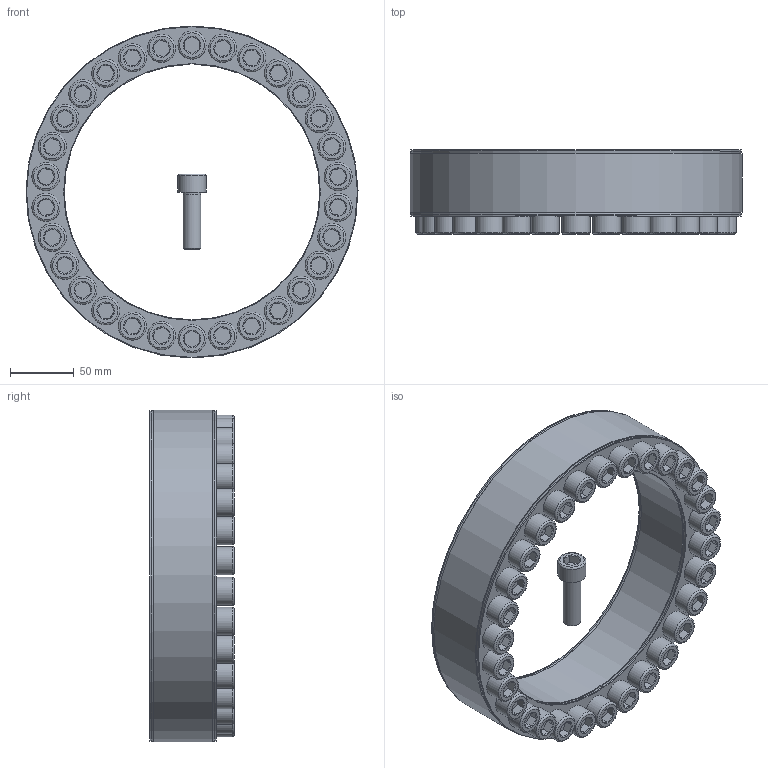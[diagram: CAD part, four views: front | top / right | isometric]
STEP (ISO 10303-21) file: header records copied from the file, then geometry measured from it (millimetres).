
FILE_DESCRIPTION( ( 'Unknown' ), '1' );
FILE_NAME( 'C:/Dokumente und Einstellungen/Sven/Desktop/homepage/cad - homepage/KBS40/KBS 40 - 200 x 260.stp', 'Unknown', ( 'Unknown' ), ( 'Unknown' ), 'XStep 1.0', 'Unknown', ' ' );
FILE_SCHEMA( ( 'automotive_design' ) );
Length unit declared in the file: millimetre
Products named in the file (32): Assem1; KBS 40 200x260; ISO 4762 M14x45; ISO 4762 M14x45-oa0; ISO 4762 M14x45-oa1; ISO 4762 M14x45-oa2; ISO 4762 M14x45-oa3; ISO 4762 M14x45-oa4; ISO 4762 M14x45-oa5; ISO 4762 M14x45-oa6; ISO 4762 M14x45-oa7; ISO 4762 M14x45-oa8; ISO 4762 M14x45-oa9; ISO 4762 M14x45-oa10; ISO 4762 M14x45-oa11; ISO 4762 M14x45-oa12; ISO 4762 M14x45-oa13; ISO 4762 M14x45-oa14; ISO 4762 M14x45-oa15; ISO 4762 M14x45-oa16; ISO 4762 M14x45-oa17; ISO 4762 M14x45-oa18; ISO 4762 M14x45-oa19; ISO 4762 M14x45-oa20; ISO 4762 M14x45-oa21; ISO 4762 M14x45-oa22; ISO 4762 M14x45-oa23; ISO 4762 M14x45-oa24; ISO 4762 M14x45-oa25; ISO 4762 M14x45-oa26; ISO 4762 M14x45-oa27; ISO 4762 M14x45-oa28
Bounding box: 259.99 x 66 x 259.98 mm (x, y, z)
Volume: 2440998.7 mm3; surface area: 598628.5 mm2
Topology: 62 solids, 62 shells, 1620 faces, 2960 edges, 1704 vertices
Faces by surface type: plane 760, cone 428, cylinder 312, torus 120
Full cylindrical faces by diameter (mm): 12 x60, 14 x180, 22 x60, 201 x4, 259 x4
Entity records: 19953 total; most frequent: CARTESIAN_POINT 4542, DIRECTION 3264, ORIENTED_EDGE 2340, AXIS2_PLACEMENT_3D 1432, EDGE_LOOP 1240, EDGE_CURVE 1170, FACE_OUTER_BOUND 1024, ADVANCED_FACE 810
